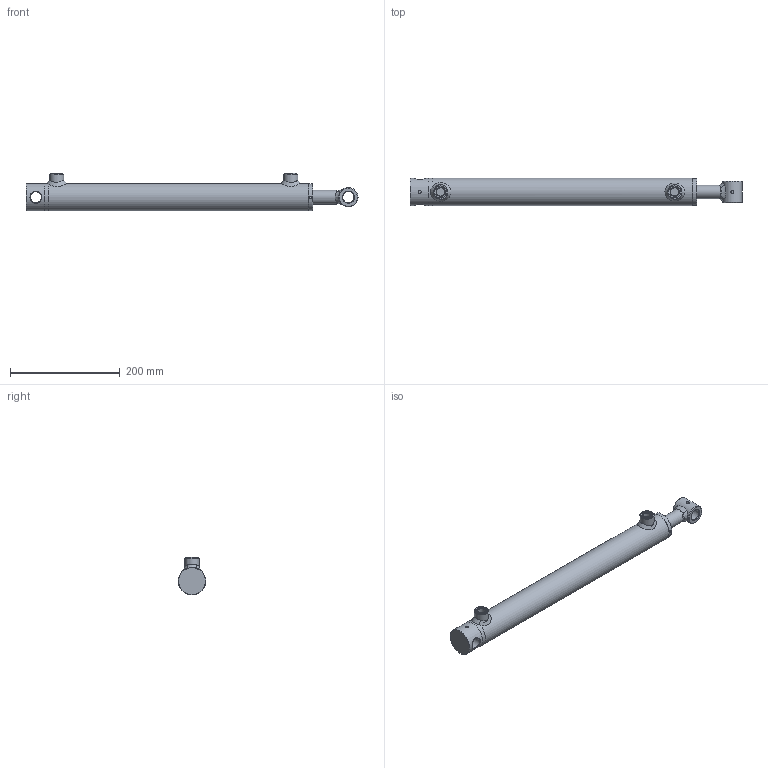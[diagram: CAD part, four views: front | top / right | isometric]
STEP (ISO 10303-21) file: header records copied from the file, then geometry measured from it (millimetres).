
FILE_DESCRIPTION( ( 'Unknown' ), '1' );
FILE_NAME( 'E:/LIBRERIA_3d/CILINDRI/HFR2S/HFR2S0400250400.stp', 'Unknown', ( 'Unknown' ), ( 'Unknown' ), 'PSStep 17.0.49', 'Unknown', ' ' );
FILE_SCHEMA( ( 'AUTOMOTIVE_DESIGN { 1 0 10303 214 1 1 1 1 }' ) );
Length unit declared in the file: millimetre
Products named in the file (21): STF2R0400500400-oa5; MAT_PRIMA_TUBO_FT05004000-oa3; Saldatura d'angolo 1-oa4; CBS0600000; CTLM040015027; CG05004025; Assem1; CFHR040020040; CBF1020035040; Saldatura con preparazione 1-oa0; Saldatura d'angolo 1-oa1; Saldatura d'angolo 2-oa2; CDA0001415; APG0600000; SBF2R250400400
Assembly tree (16 placements, depth 3):
  Saldatura d'angolo 1-oa4
  Saldatura d'angolo 1-oa4
  Assem1
    CFHR040020040
    CBF1020035040
    Saldatura con preparazione 1-oa0
    Saldatura con preparazione 1-oa0
    CBS0600000
    CDA0001415
    APG0600000  x2
    SBF2R250400400
    CG05004025
      CG05004025
    CTLM040015027
      CTLM040015027
    STF2R0400500400-oa5
      MAT_PRIMA_TUBO_FT05004000-oa3
      CBS0600000
  Saldatura d'angolo 1-oa1
  Saldatura d'angolo 1-oa1
Bounding box: 605.5 x 50 x 69 mm (x, y, z)
Volume: 744951.1 mm3; surface area: 246239.7 mm2
Topology: 19 solids, 19 shells, 240 faces, 502 edges, 305 vertices
Faces by surface type: cylinder 60, plane 59, bspline 44, torus 39, cone 38
Full cylindrical faces by diameter (mm): 4 x4, 5.5 x2, 7 x2, 12 x1, 14 x2, 14.95 x2, 15 x3, 16 x2, 16.6 x2, 19.5 x1, 20.25 x2, 22 x3, 25 x4, 26 x2, 27 x2, 28 x1, 32 x1, 33 x1, 33.6 x1, 35 x2, 37 x2, 39 x2, 39.9 x1, 40 x1, 40.3 x1, 40.5 x1, 40.6 x1, 41 x1, 42 x3, 42.5 x1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
Entity records: 13287 total; most frequent: CARTESIAN_POINT 7534, DIRECTION 762, ORIENTED_EDGE 580, EDGE_LOOP 402, AXIS2_PLACEMENT_3D 369, FACE_OUTER_BOUND 323, EDGE_CURVE 290, VERTEX_POINT 244
